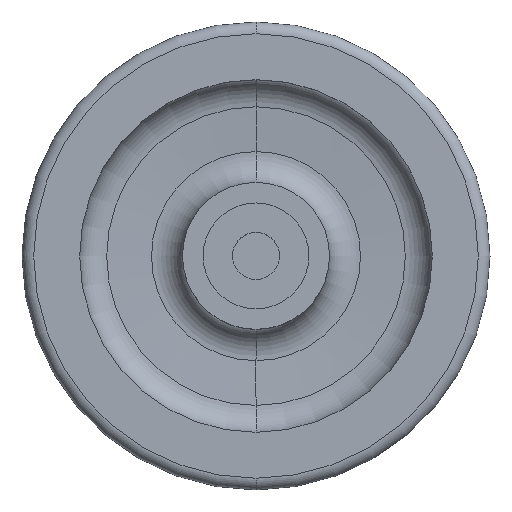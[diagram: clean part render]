
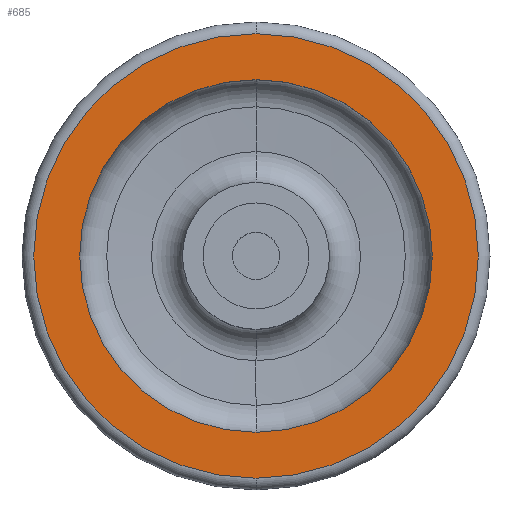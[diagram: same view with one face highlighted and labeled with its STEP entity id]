
A CAD part, top view. The second image highlights one B-rep face of the part: STEP entity #685.
In plain terms, the highlighted planar face has unit normal (0, 0, 1).
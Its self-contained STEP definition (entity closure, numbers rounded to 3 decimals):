
#27 = AXIS2_PLACEMENT_3D ( 'NONE', #540, #230, #848 ) ;
#43 = VERTEX_POINT ( 'NONE', #591 ) ;
#48 = AXIS2_PLACEMENT_3D ( 'NONE', #660, #899, #205 ) ;
#91 = CIRCLE ( 'NONE', #853, 37.817 ) ;
#98 = EDGE_CURVE ( 'NONE', #43, #299, #91, .T. ) ;
#178 = CIRCLE ( 'NONE', #872, 30. ) ;
#196 = VERTEX_POINT ( 'NONE', #916 ) ;
#205 = DIRECTION ( 'NONE',  ( 0., 1., 0. ) ) ;
#206 = EDGE_CURVE ( 'NONE', #196, #800, #983, .T. ) ;
#214 = EDGE_LOOP ( 'NONE', ( #414, #796 ) ) ;
#230 = DIRECTION ( 'NONE',  ( 0., 0., 1. ) ) ;
#234 = ORIENTED_EDGE ( 'NONE', *, *, #206, .F. ) ;
#238 = CARTESIAN_POINT ( 'NONE',  ( 0., 37.817, -9. ) ) ;
#239 = ORIENTED_EDGE ( 'NONE', *, *, #289, .F. ) ;
#245 = AXIS2_PLACEMENT_3D ( 'NONE', #529, #290, #442 ) ;
#289 = EDGE_CURVE ( 'NONE', #800, #196, #178, .T. ) ;
#290 = DIRECTION ( 'NONE',  ( 0., 0., 1. ) ) ;
#299 = VERTEX_POINT ( 'NONE', #238 ) ;
#348 = PLANE ( 'NONE',  #48 ) ;
#382 = CIRCLE ( 'NONE', #27, 37.817 ) ;
#392 = CARTESIAN_POINT ( 'NONE',  ( 0., 0., -9. ) ) ;
#399 = DIRECTION ( 'NONE',  ( 0., 0., 1. ) ) ;
#414 = ORIENTED_EDGE ( 'NONE', *, *, #98, .T. ) ;
#422 = DIRECTION ( 'NONE',  ( 0., 0., 1. ) ) ;
#442 = DIRECTION ( 'NONE',  ( 0., -1., 0. ) ) ;
#451 = FACE_BOUND ( 'NONE', #960, .T. ) ;
#478 = DIRECTION ( 'NONE',  ( 0., -1., 0. ) ) ;
#517 = CARTESIAN_POINT ( 'NONE',  ( 0., 0., -9. ) ) ;
#529 = CARTESIAN_POINT ( 'NONE',  ( 0., 0., -9. ) ) ;
#540 = CARTESIAN_POINT ( 'NONE',  ( 0., 0., -9. ) ) ;
#575 = EDGE_CURVE ( 'NONE', #299, #43, #382, .T. ) ;
#591 = CARTESIAN_POINT ( 'NONE',  ( 0., -37.817, -9. ) ) ;
#660 = CARTESIAN_POINT ( 'NONE',  ( 0., 30., -9. ) ) ;
#675 = CARTESIAN_POINT ( 'NONE',  ( 0., 30., -9. ) ) ;
#685 = ADVANCED_FACE ( 'NONE', ( #451, #910 ), #348, .F. ) ;
#796 = ORIENTED_EDGE ( 'NONE', *, *, #575, .T. ) ;
#800 = VERTEX_POINT ( 'NONE', #675 ) ;
#848 = DIRECTION ( 'NONE',  ( 0., -1., 0. ) ) ;
#853 = AXIS2_PLACEMENT_3D ( 'NONE', #517, #422, #891 ) ;
#872 = AXIS2_PLACEMENT_3D ( 'NONE', #392, #399, #478 ) ;
#891 = DIRECTION ( 'NONE',  ( 0., -1., 0. ) ) ;
#899 = DIRECTION ( 'NONE',  ( 0., 0., -1. ) ) ;
#910 = FACE_OUTER_BOUND ( 'NONE', #214, .T. ) ;
#916 = CARTESIAN_POINT ( 'NONE',  ( 0., -30., -9. ) ) ;
#960 = EDGE_LOOP ( 'NONE', ( #234, #239 ) ) ;
#983 = CIRCLE ( 'NONE', #245, 30. ) ;
